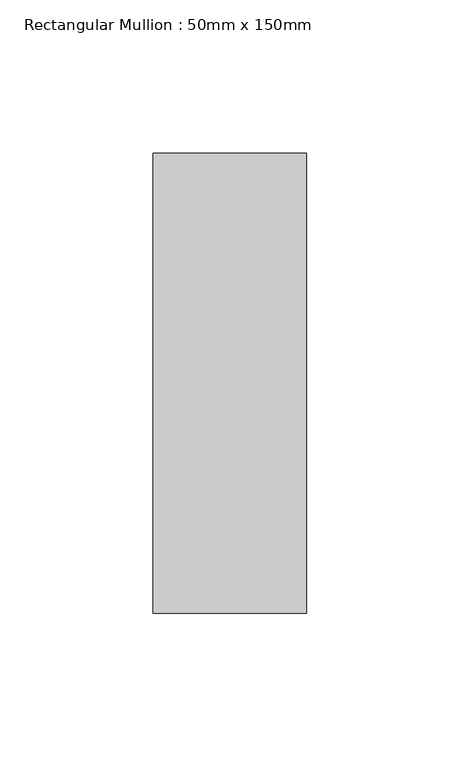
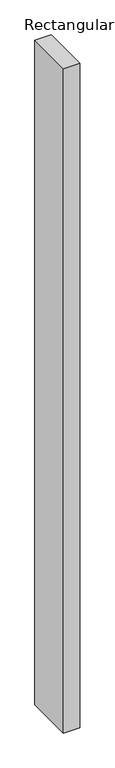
"""IFC4 building model written with IfcOpenShell, lengths in millimetres: member geometry, Rectangular Mullion : 50mm x 150mm."""

from ifc_helpers import new_model, si_unit, frame, origin, place, context, project, spatial, polyline, outline, extrude, source, transform, mapped, element, save


def rectangular_mullion_50mm_x_150mm_d8a63713(model_context):
    return source(origin(), model_context, "Body", "SweptSolid", [
        extrude(outline(polyline([(25.0, 75.0), (25.0, -75.0), (-25.0, -75.0), (-25.0, 75.0), (25.0, 75.0)])), frame((0.0, 0.0, -2135.0), z_axis=(0.0, 0.0, 1.0), x_axis=(1.0, 0.0, 0.0)), (0.0, 0.0, 1.0), 2135.0),
    ])


if __name__ == "__main__":
    model = new_model("IFC4")
    model_context = context("Model", 3, world=origin())
    ifc_project = project(units=[si_unit("LENGTHUNIT", "METRE", prefix="MILLI")], contexts=[model_context])
    site = spatial("IfcSite", under=ifc_project)
    building = spatial("IfcBuilding", under=site)
    placement = place(None, origin())
    rectangular_mullion_50mm_x_150mm_shape = rectangular_mullion_50mm_x_150mm_d8a63713(model_context)
    element("IfcMember", 1, ObjectType="Rectangular Mullion : 50mm x 150mm", at=placement, inside=building, context=model_context, shape_type="MappedRepresentation", body=[
        mapped(rectangular_mullion_50mm_x_150mm_shape, transform((0.0, 0.0, 0.0), x_axis=(1.0, 0.0, 0.0), y_axis=(0.0, 1.0, 0.0), z_axis=(0.0, 0.0, 1.0))),
    ])
    save(model, "model.ifc")
